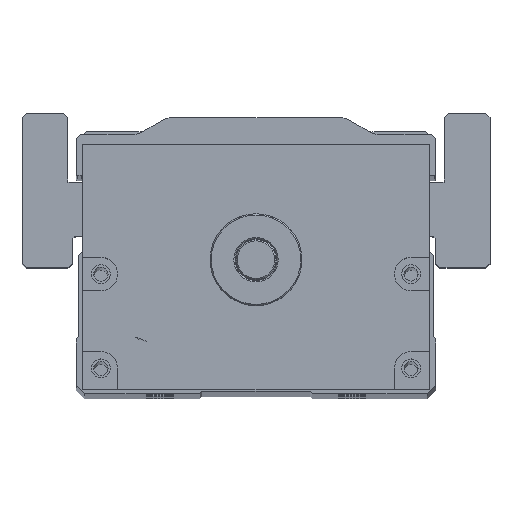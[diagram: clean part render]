
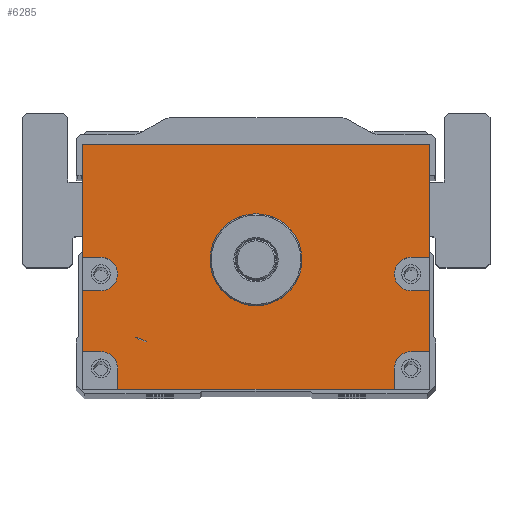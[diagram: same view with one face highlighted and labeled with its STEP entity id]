
A CAD part, top view. The second image highlights one B-rep face of the part: STEP entity #6285.
In plain terms, the highlighted planar face has unit normal (0, 0, 1).
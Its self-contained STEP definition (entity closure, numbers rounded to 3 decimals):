
#737=LINE('',#29919,#1588);
#739=LINE('',#29927,#1590);
#740=LINE('',#29930,#1591);
#741=LINE('',#29932,#1592);
#742=LINE('',#29936,#1593);
#743=LINE('',#29938,#1594);
#744=LINE('',#29939,#1595);
#745=LINE('',#29941,#1596);
#746=LINE('',#29945,#1597);
#747=LINE('',#29947,#1598);
#748=LINE('',#29949,#1599);
#749=LINE('',#29953,#1600);
#750=LINE('',#29955,#1601);
#751=LINE('',#29957,#1602);
#1588=VECTOR('',#17838,1.);
#1590=VECTOR('',#17846,1.);
#1591=VECTOR('',#17847,1.);
#1592=VECTOR('',#17848,1.);
#1593=VECTOR('',#17851,1.);
#1594=VECTOR('',#17852,1.);
#1595=VECTOR('',#17853,1.);
#1596=VECTOR('',#17854,1.);
#1597=VECTOR('',#17857,1.);
#1598=VECTOR('',#17858,1.);
#1599=VECTOR('',#17859,1.);
#1600=VECTOR('',#17862,1.);
#1601=VECTOR('',#17863,1.);
#1602=VECTOR('',#17864,1.);
#5659=FACE_BOUND('',#8019,.T.);
#5660=FACE_BOUND('',#8020,.T.);
#6285=ADVANCED_FACE('',(#5659,#5660),#6869,.T.);
#6869=PLANE('',#15830);
#8019=EDGE_LOOP('',(#9961,#9962,#9963,#9964,#9965,#9966,#9967,#9968,#9969,
#9970,#9971,#9972,#9973,#9974,#9975,#9976,#9977,#9978));
#8020=EDGE_LOOP('',(#9979));
#9961=ORIENTED_EDGE('',*,*,#13836,.F.);
#9962=ORIENTED_EDGE('',*,*,#13837,.T.);
#9963=ORIENTED_EDGE('',*,*,#13838,.F.);
#9964=ORIENTED_EDGE('',*,*,#13839,.F.);
#9965=ORIENTED_EDGE('',*,*,#13840,.F.);
#9966=ORIENTED_EDGE('',*,*,#13841,.T.);
#9967=ORIENTED_EDGE('',*,*,#13832,.T.);
#9968=ORIENTED_EDGE('',*,*,#13842,.T.);
#9969=ORIENTED_EDGE('',*,*,#13843,.F.);
#9970=ORIENTED_EDGE('',*,*,#13844,.F.);
#9971=ORIENTED_EDGE('',*,*,#13845,.F.);
#9972=ORIENTED_EDGE('',*,*,#13846,.T.);
#9973=ORIENTED_EDGE('',*,*,#13847,.F.);
#9974=ORIENTED_EDGE('',*,*,#13848,.F.);
#9975=ORIENTED_EDGE('',*,*,#13849,.F.);
#9976=ORIENTED_EDGE('',*,*,#13850,.T.);
#9977=ORIENTED_EDGE('',*,*,#13851,.F.);
#9978=ORIENTED_EDGE('',*,*,#13852,.F.);
#9979=ORIENTED_EDGE('',*,*,#13818,.T.);
#12439=VERTEX_POINT('',#29890);
#12452=VERTEX_POINT('',#29918);
#12453=VERTEX_POINT('',#29920);
#12456=VERTEX_POINT('',#29928);
#12457=VERTEX_POINT('',#29929);
#12458=VERTEX_POINT('',#29931);
#12459=VERTEX_POINT('',#29933);
#12460=VERTEX_POINT('',#29935);
#12461=VERTEX_POINT('',#29937);
#12462=VERTEX_POINT('',#29940);
#12463=VERTEX_POINT('',#29942);
#12464=VERTEX_POINT('',#29944);
#12465=VERTEX_POINT('',#29946);
#12466=VERTEX_POINT('',#29948);
#12467=VERTEX_POINT('',#29950);
#12468=VERTEX_POINT('',#29952);
#12469=VERTEX_POINT('',#29954);
#12470=VERTEX_POINT('',#29956);
#12471=VERTEX_POINT('',#29958);
#13818=EDGE_CURVE('',#12439,#12439,#15036,.T.);
#13832=EDGE_CURVE('',#12453,#12452,#737,.T.);
#13836=EDGE_CURVE('',#12456,#12457,#739,.T.);
#13837=EDGE_CURVE('',#12456,#12458,#740,.T.);
#13838=EDGE_CURVE('',#12459,#12458,#741,.T.);
#13839=EDGE_CURVE('',#12460,#12459,#15047,.T.);
#13840=EDGE_CURVE('',#12461,#12460,#742,.T.);
#13841=EDGE_CURVE('',#12461,#12453,#743,.T.);
#13842=EDGE_CURVE('',#12452,#12462,#744,.T.);
#13843=EDGE_CURVE('',#12463,#12462,#745,.T.);
#13844=EDGE_CURVE('',#12464,#12463,#15048,.T.);
#13845=EDGE_CURVE('',#12465,#12464,#746,.T.);
#13846=EDGE_CURVE('',#12465,#12466,#747,.T.);
#13847=EDGE_CURVE('',#12467,#12466,#748,.T.);
#13848=EDGE_CURVE('',#12468,#12467,#15049,.T.);
#13849=EDGE_CURVE('',#12469,#12468,#749,.T.);
#13850=EDGE_CURVE('',#12469,#12470,#750,.T.);
#13851=EDGE_CURVE('',#12471,#12470,#751,.T.);
#13852=EDGE_CURVE('',#12457,#12471,#15050,.T.);
#15036=CIRCLE('',#15812,11.);
#15047=CIRCLE('',#15826,4.);
#15048=CIRCLE('',#15827,4.);
#15049=CIRCLE('',#15828,4.);
#15050=CIRCLE('',#15829,4.);
#15812=AXIS2_PLACEMENT_3D('',#29889,#17811,#17812);
#15826=AXIS2_PLACEMENT_3D('',#29934,#17849,#17850);
#15827=AXIS2_PLACEMENT_3D('',#29943,#17855,#17856);
#15828=AXIS2_PLACEMENT_3D('',#29951,#17860,#17861);
#15829=AXIS2_PLACEMENT_3D('',#29959,#17865,#17866);
#15830=AXIS2_PLACEMENT_3D('',#29960,#17867,#17868);
#17811=DIRECTION('',(0.,0.,-1.));
#17812=DIRECTION('',(1.,0.,0.));
#17838=DIRECTION('',(-1.,0.,0.));
#17846=DIRECTION('',(-1.,0.,0.));
#17847=DIRECTION('',(0.,1.,0.));
#17848=DIRECTION('',(1.,0.,0.));
#17849=DIRECTION('',(0.,0.,1.));
#17850=DIRECTION('',(1.,0.,0.));
#17851=DIRECTION('',(-1.,0.,0.));
#17852=DIRECTION('',(0.,1.,0.));
#17853=DIRECTION('',(0.,-1.,0.));
#17854=DIRECTION('',(-1.,0.,0.));
#17855=DIRECTION('',(0.,0.,1.));
#17856=DIRECTION('',(1.,0.,0.));
#17857=DIRECTION('',(1.,0.,0.));
#17858=DIRECTION('',(0.,-1.,0.));
#17859=DIRECTION('',(-1.,0.,0.));
#17860=DIRECTION('',(0.,0.,1.));
#17861=DIRECTION('',(1.,0.,0.));
#17862=DIRECTION('',(0.,1.,0.));
#17863=DIRECTION('',(1.,0.,0.));
#17864=DIRECTION('',(0.,-1.,0.));
#17865=DIRECTION('',(0.,0.,1.));
#17866=DIRECTION('',(1.,0.,0.));
#17867=DIRECTION('',(0.,0.,1.));
#17868=DIRECTION('',(1.,0.,0.));
#29889=CARTESIAN_POINT('',(150.,0.,582.5));
#29890=CARTESIAN_POINT('',(161.,0.,582.5));
#29918=CARTESIAN_POINT('',(108.5,27.5,582.5));
#29919=CARTESIAN_POINT('',(191.5,27.5,582.5));
#29920=CARTESIAN_POINT('',(191.5,27.5,582.5));
#29927=CARTESIAN_POINT('',(191.5,-22.,582.5));
#29928=CARTESIAN_POINT('',(191.5,-22.,582.5));
#29929=CARTESIAN_POINT('',(187.115,-22.,582.5));
#29930=CARTESIAN_POINT('',(191.5,-31.,582.5));
#29931=CARTESIAN_POINT('',(191.5,-7.431,582.5));
#29932=CARTESIAN_POINT('',(191.5,-7.431,582.5));
#29933=CARTESIAN_POINT('',(187.115,-7.431,582.5));
#29934=CARTESIAN_POINT('',(187.115,-3.431,582.5));
#29935=CARTESIAN_POINT('',(187.115,0.569,582.5));
#29936=CARTESIAN_POINT('',(191.5,0.569,582.5));
#29937=CARTESIAN_POINT('',(191.5,0.569,582.5));
#29938=CARTESIAN_POINT('',(191.5,-31.,582.5));
#29939=CARTESIAN_POINT('',(108.5,27.5,582.5));
#29940=CARTESIAN_POINT('',(108.5,0.569,582.5));
#29941=CARTESIAN_POINT('',(191.5,0.569,582.5));
#29942=CARTESIAN_POINT('',(112.885,0.569,582.5));
#29943=CARTESIAN_POINT('',(112.885,-3.431,582.5));
#29944=CARTESIAN_POINT('',(112.885,-7.431,582.5));
#29945=CARTESIAN_POINT('',(191.5,-7.431,582.5));
#29946=CARTESIAN_POINT('',(108.5,-7.431,582.5));
#29947=CARTESIAN_POINT('',(108.5,27.5,582.5));
#29948=CARTESIAN_POINT('',(108.5,-22.,582.5));
#29949=CARTESIAN_POINT('',(191.5,-22.,582.5));
#29950=CARTESIAN_POINT('',(112.885,-22.,582.5));
#29951=CARTESIAN_POINT('',(112.885,-26.,582.5));
#29952=CARTESIAN_POINT('',(116.885,-26.,582.5));
#29953=CARTESIAN_POINT('',(116.885,-31.,582.5));
#29954=CARTESIAN_POINT('',(116.885,-31.,582.5));
#29955=CARTESIAN_POINT('',(108.5,-31.,582.5));
#29956=CARTESIAN_POINT('',(183.115,-31.,582.5));
#29957=CARTESIAN_POINT('',(183.115,-31.,582.5));
#29958=CARTESIAN_POINT('',(183.115,-26.,582.5));
#29959=CARTESIAN_POINT('',(187.115,-26.,582.5));
#29960=CARTESIAN_POINT('',(191.5,-31.,582.5));
